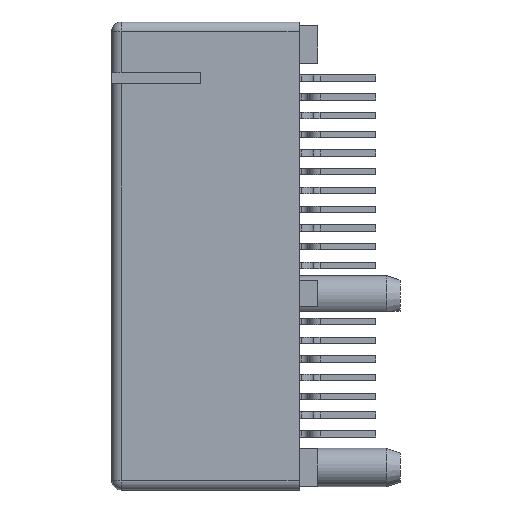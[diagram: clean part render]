
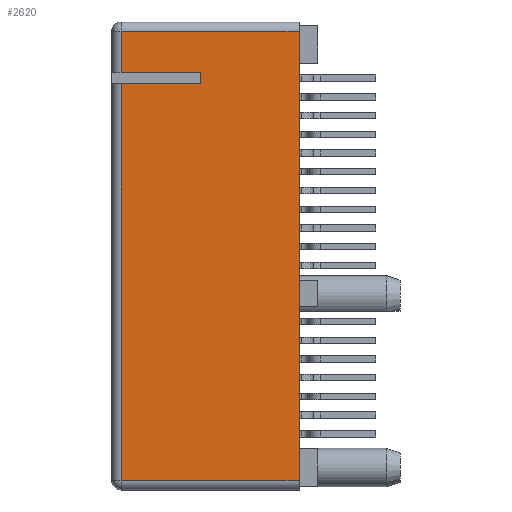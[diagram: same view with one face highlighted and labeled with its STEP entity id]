
A CAD part, left-side view. The second image highlights one B-rep face of the part: STEP entity #2620.
In plain terms, the highlighted planar face has unit normal (-1, 0, 0).
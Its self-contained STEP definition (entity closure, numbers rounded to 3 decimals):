
#24 = ORIENTED_EDGE ( 'NONE', *, *, #13110, .F. ) ;
#27 = ORIENTED_EDGE ( 'NONE', *, *, #13133, .T. ) ;
#84 = ORIENTED_EDGE ( 'NONE', *, *, #13137, .T. ) ;
#120 = ORIENTED_EDGE ( 'NONE', *, *, #13169, .T. ) ;
#136 = ORIENTED_EDGE ( 'NONE', *, *, #13170, .T. ) ;
#414 = LINE ( 'NONE', #16157, #15353 ) ;
#491 = DIRECTION ( 'NONE',  ( 0., -1., 0. ) ) ;
#536 = CARTESIAN_POINT ( 'NONE',  ( -3.7, 10., 0.5 ) ) ;
#594 = DIRECTION ( 'NONE',  ( 0., 0., -1. ) ) ;
#834 = CARTESIAN_POINT ( 'NONE',  ( -3.7, 9.5, 25. ) ) ;
#988 = CARTESIAN_POINT ( 'NONE',  ( -3.7, 9.5, 22.3 ) ) ;
#1141 = DIRECTION ( 'NONE',  ( 0., 0., -1. ) ) ;
#1163 = CARTESIAN_POINT ( 'NONE',  ( -3.7, 5.25, 21.7 ) ) ;
#1267 = CARTESIAN_POINT ( 'NONE',  ( -3.7, 4.469, 21.7 ) ) ;
#1551 = DIRECTION ( 'NONE',  ( 0., 1., 0. ) ) ;
#1863 = DIRECTION ( 'NONE',  ( 0., 1., 0. ) ) ;
#1892 = CARTESIAN_POINT ( 'NONE',  ( -3.7, 4.469, 22.3 ) ) ;
#1926 = DIRECTION ( 'NONE',  ( 0., 0., -1. ) ) ;
#2011 = CARTESIAN_POINT ( 'NONE',  ( -3.7, 9.5, 25. ) ) ;
#2103 = VECTOR ( 'NONE', #594, 1000. ) ;
#2155 = DIRECTION ( 'NONE',  ( 0., 1., 0. ) ) ;
#2549 = LINE ( 'NONE', #1163, #6386 ) ;
#2620 = ADVANCED_FACE ( 'NONE', ( #16257 ), #5597, .F. ) ;
#2640 = CARTESIAN_POINT ( 'NONE',  ( -3.7, 10., 24.5 ) ) ;
#2932 = CARTESIAN_POINT ( 'NONE',  ( -3.7, 9.5, 24.5 ) ) ;
#3014 = VECTOR ( 'NONE', #1863, 1000. ) ;
#3137 = AXIS2_PLACEMENT_3D ( 'NONE', #5570, #5389, #5288 ) ;
#4252 = VERTEX_POINT ( 'NONE', #5331 ) ;
#4493 = VERTEX_POINT ( 'NONE', #2932 ) ;
#4678 = VERTEX_POINT ( 'NONE', #988 ) ;
#4903 = EDGE_CURVE ( 'NONE', #7519, #11801, #414, .T. ) ;
#5147 = VERTEX_POINT ( 'NONE', #9761 ) ;
#5288 = DIRECTION ( 'NONE',  ( 0., 1., 0. ) ) ;
#5331 = CARTESIAN_POINT ( 'NONE',  ( -3.7, 5.25, 22.3 ) ) ;
#5379 = VERTEX_POINT ( 'NONE', #5535 ) ;
#5389 = DIRECTION ( 'NONE',  ( 1., 0., 0. ) ) ;
#5535 = CARTESIAN_POINT ( 'NONE',  ( -3.7, 9.5, 21.7 ) ) ;
#5570 = CARTESIAN_POINT ( 'NONE',  ( -3.7, 10., 25. ) ) ;
#5597 = PLANE ( 'NONE',  #3137 ) ;
#5836 = VERTEX_POINT ( 'NONE', #15294 ) ;
#6386 = VECTOR ( 'NONE', #1141, 1000. ) ;
#7329 = LINE ( 'NONE', #2640, #11724 ) ;
#7519 = VERTEX_POINT ( 'NONE', #17594 ) ;
#9461 = VECTOR ( 'NONE', #491, 1000. ) ;
#9761 = CARTESIAN_POINT ( 'NONE',  ( -3.7, 5.25, 21.7 ) ) ;
#9915 = LINE ( 'NONE', #536, #9461 ) ;
#10038 = EDGE_LOOP ( 'NONE', ( #18093, #17193, #16623, #24, #27, #84, #120, #136 ) ) ;
#10367 = LINE ( 'NONE', #1267, #13713 ) ;
#10825 = VECTOR ( 'NONE', #1926, 1000. ) ;
#11724 = VECTOR ( 'NONE', #2155, 1000. ) ;
#11801 = VERTEX_POINT ( 'NONE', #17819 ) ;
#13064 = EDGE_CURVE ( 'NONE', #7519, #4493, #7329, .T. ) ;
#13089 = EDGE_CURVE ( 'NONE', #4493, #4678, #18338, .T. ) ;
#13110 = EDGE_CURVE ( 'NONE', #4252, #4678, #14605, .T. ) ;
#13133 = EDGE_CURVE ( 'NONE', #4252, #5147, #2549, .T. ) ;
#13137 = EDGE_CURVE ( 'NONE', #5147, #5379, #10367, .T. ) ;
#13169 = EDGE_CURVE ( 'NONE', #5379, #5836, #17501, .T. ) ;
#13170 = EDGE_CURVE ( 'NONE', #5836, #11801, #9915, .T. ) ;
#13713 = VECTOR ( 'NONE', #1551, 1000. ) ;
#14605 = LINE ( 'NONE', #1892, #3014 ) ;
#15294 = CARTESIAN_POINT ( 'NONE',  ( -3.7, 9.5, 0.5 ) ) ;
#15353 = VECTOR ( 'NONE', #17199, 1000. ) ;
#16157 = CARTESIAN_POINT ( 'NONE',  ( -3.7, 0., 25. ) ) ;
#16257 = FACE_OUTER_BOUND ( 'NONE', #10038, .T. ) ;
#16623 = ORIENTED_EDGE ( 'NONE', *, *, #13089, .T. ) ;
#17193 = ORIENTED_EDGE ( 'NONE', *, *, #13064, .T. ) ;
#17199 = DIRECTION ( 'NONE',  ( 0., 0., -1. ) ) ;
#17501 = LINE ( 'NONE', #834, #2103 ) ;
#17594 = CARTESIAN_POINT ( 'NONE',  ( -3.7, 0., 24.5 ) ) ;
#17819 = CARTESIAN_POINT ( 'NONE',  ( -3.7, 0., 0.5 ) ) ;
#18093 = ORIENTED_EDGE ( 'NONE', *, *, #4903, .F. ) ;
#18338 = LINE ( 'NONE', #2011, #10825 ) ;
